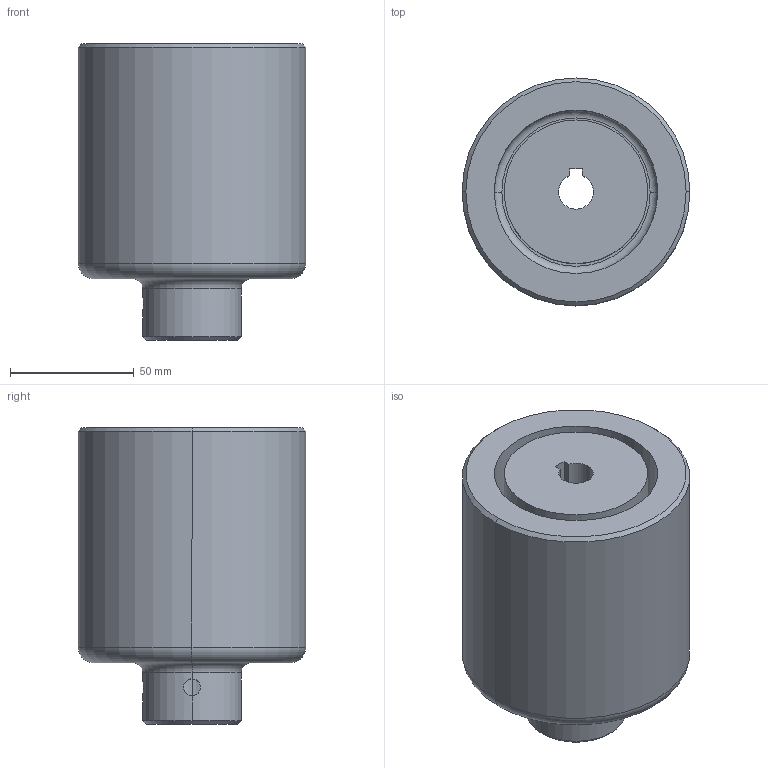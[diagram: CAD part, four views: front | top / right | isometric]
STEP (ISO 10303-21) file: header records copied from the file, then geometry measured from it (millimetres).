
FILE_DESCRIPTION (( 'STEP AP214' ), '1' );
FILE_NAME ('mobac_MTC-16.STEP', '2023-05-09T08:26:19', ( '' ), ( '' ), 'SwSTEP 2.0', 'SolidWorks 2022', '' );
FILE_SCHEMA (( 'AUTOMOTIVE_DESIGN' ));
Length unit declared in the file: millimetre
Products named in the file (1): mobac_MTC-16
Bounding box: 91.95 x 91.95 x 119.89 mm (x, y, z)
Volume: 515354 mm3; surface area: 81361.9 mm2
Topology: 2 solids, 2 shells, 46 faces, 112 edges, 70 vertices
Faces by surface type: cylinder 20, plane 16, torus 6, cone 4
Entity records: 1663 total; most frequent: CARTESIAN_POINT 449, DIRECTION 250, ORIENTED_EDGE 224, EDGE_CURVE 112, AXIS2_PLACEMENT_3D 99, VERTEX_POINT 70, EDGE_LOOP 54, CIRCLE 52
